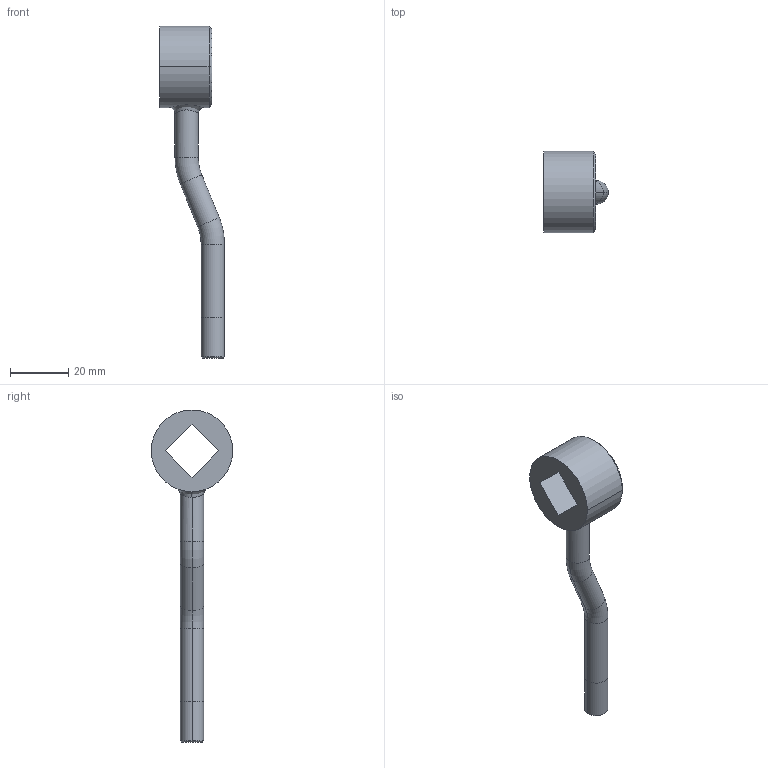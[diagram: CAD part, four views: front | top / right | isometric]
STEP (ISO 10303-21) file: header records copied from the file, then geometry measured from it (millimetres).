
FILE_DESCRIPTION((''),'2;1');
FILE_NAME('HEBEL','2022-06-13T16:15:10',('H041970'),(''),'CREO PARAMETRIC BY PTC INC, 2021284','CREO PARAMETRIC BY PTC INC, 2021284','');
FILE_SCHEMA(('CONFIG_CONTROL_DESIGN'));
Length unit declared in the file: millimetre
Products named in the file (1): HEBEL
Bounding box: 22.31 x 28 x 114 mm (x, y, z)
Volume: 12421.7 mm3; surface area: 5874.7 mm2
Topology: 1 solids, 2 shells, 28 faces, 69 edges, 50 vertices
Faces by surface type: cylinder 10, plane 8, cone 4, torus 4, bspline 2
Entity records: 1488 total; most frequent: CARTESIAN_POINT 776, DIRECTION 151, ORIENTED_EDGE 116, EDGE_CURVE 60, AXIS2_PLACEMENT_3D 59, VERTEX_POINT 36, VECTOR 33, LINE 33
